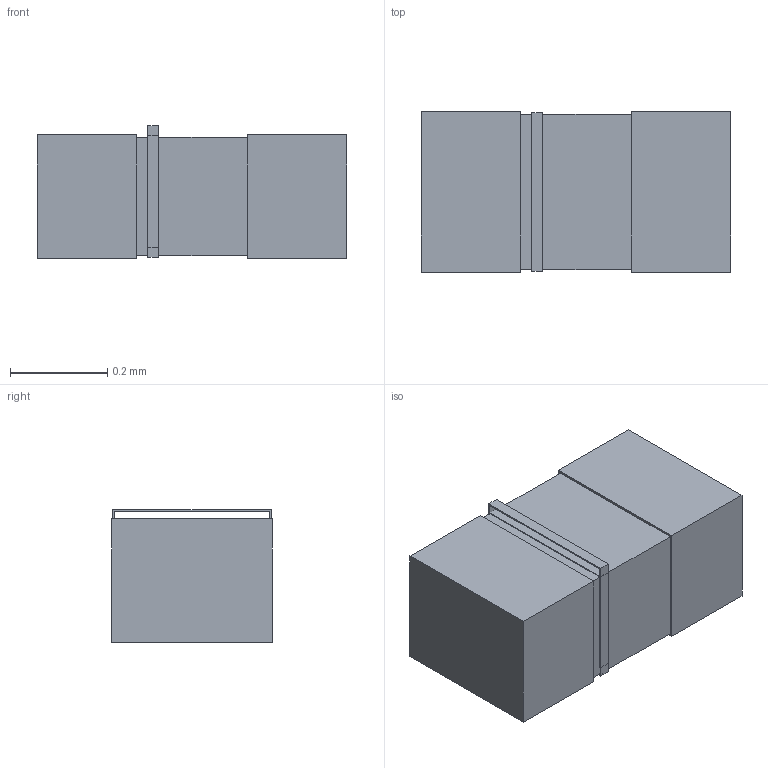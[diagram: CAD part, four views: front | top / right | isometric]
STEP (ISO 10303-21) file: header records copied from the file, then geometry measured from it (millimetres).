
FILE_DESCRIPTION(('STEP AP214'),'1');
FILE_NAME('0201_PAN','2021-08-28T04:50:08',(''),(''),'','','');
FILE_SCHEMA(('AUTOMOTIVE_DESIGN'));
Length unit declared in the file: millimetre
Products named in the file (1): product
Bounding box: 0.64 x 0.33 x 0.27 mm (x, y, z)
Volume: 0.1 mm3; surface area: 1.3 mm2
Topology: 5 solids, 5 shells, 42 faces, 92 edges, 56 vertices
Faces by surface type: plane 42
Entity records: 1109 total; most frequent: ORIENTED_EDGE 184, DIRECTION 178, CARTESIAN_POINT 99, EDGE_CURVE 92, LINE 92, VECTOR 92, VERTEX_POINT 56, AXIS2_PLACEMENT_3D 43
